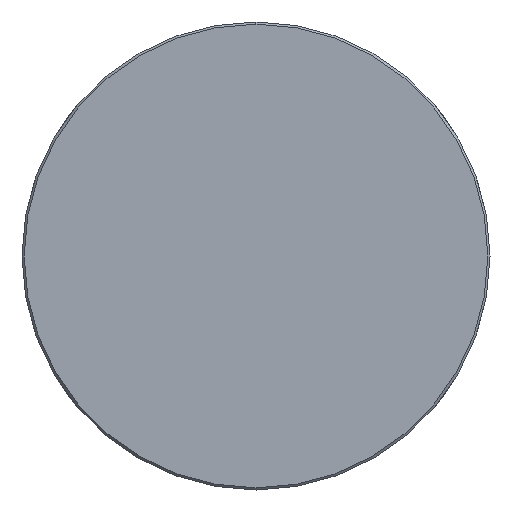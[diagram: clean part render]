
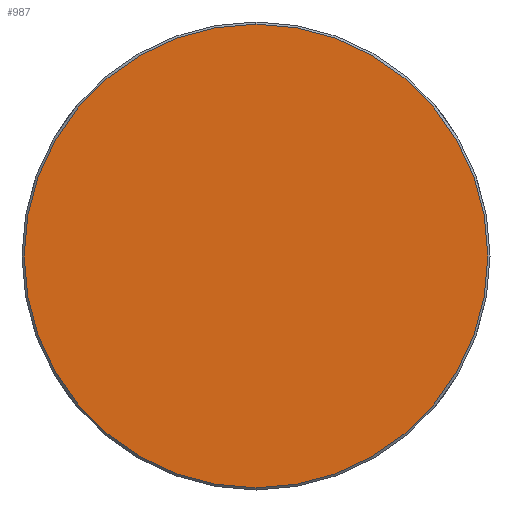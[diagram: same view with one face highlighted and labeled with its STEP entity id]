
A CAD part, left-side view. The second image highlights one B-rep face of the part: STEP entity #987.
In plain terms, the highlighted planar face has unit normal (-1, 0, 0).
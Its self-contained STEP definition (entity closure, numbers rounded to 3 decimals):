
#121 = AXIS2_PLACEMENT_3D ( 'NONE', #171, #1257, #515 ) ;
#171 = CARTESIAN_POINT ( 'NONE',  ( -62.85, 0., 0. ) ) ;
#205 = DIRECTION ( 'NONE',  ( 0., 0., -1. ) ) ;
#223 = CARTESIAN_POINT ( 'NONE',  ( -62.85, -32.08, 32.08 ) ) ;
#240 = ORIENTED_EDGE ( 'NONE', *, *, #1564, .T. ) ;
#288 = AXIS2_PLACEMENT_3D ( 'NONE', #223, #1445, #959 ) ;
#324 = DIRECTION ( 'NONE',  ( -1., 0., 0. ) ) ;
#350 = PLANE ( 'NONE',  #288 ) ;
#515 = DIRECTION ( 'NONE',  ( 0., 0., -1. ) ) ;
#558 = ORIENTED_EDGE ( 'NONE', *, *, #967, .T. ) ;
#612 = CARTESIAN_POINT ( 'NONE',  ( -62.85, 0., -31.7 ) ) ;
#732 = CIRCLE ( 'NONE', #121, 31.7 ) ;
#916 = CIRCLE ( 'NONE', #1525, 31.7 ) ;
#948 = CARTESIAN_POINT ( 'NONE',  ( -62.85, 0., 0. ) ) ;
#959 = DIRECTION ( 'NONE',  ( 0., 0., -1. ) ) ;
#967 = EDGE_CURVE ( 'NONE', #1497, #1489, #916, .T. ) ;
#987 = ADVANCED_FACE ( 'NONE', ( #1361 ), #350, .F. ) ;
#1011 = EDGE_LOOP ( 'NONE', ( #240, #558 ) ) ;
#1248 = CARTESIAN_POINT ( 'NONE',  ( -62.85, 0., 31.7 ) ) ;
#1257 = DIRECTION ( 'NONE',  ( -1., 0., 0. ) ) ;
#1361 = FACE_OUTER_BOUND ( 'NONE', #1011, .T. ) ;
#1445 = DIRECTION ( 'NONE',  ( 1., 0., 0. ) ) ;
#1489 = VERTEX_POINT ( 'NONE', #612 ) ;
#1497 = VERTEX_POINT ( 'NONE', #1248 ) ;
#1525 = AXIS2_PLACEMENT_3D ( 'NONE', #948, #324, #205 ) ;
#1564 = EDGE_CURVE ( 'NONE', #1489, #1497, #732, .T. ) ;
